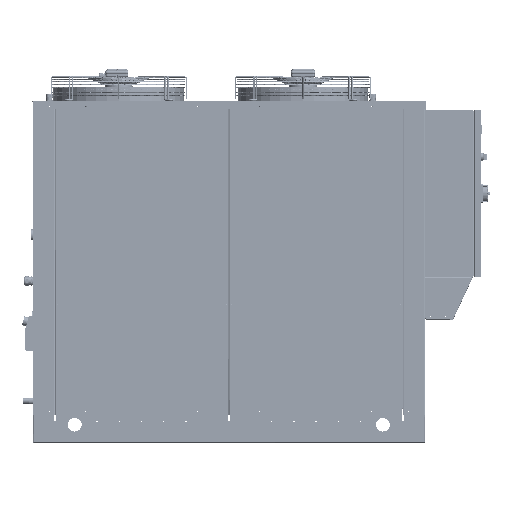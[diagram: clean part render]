
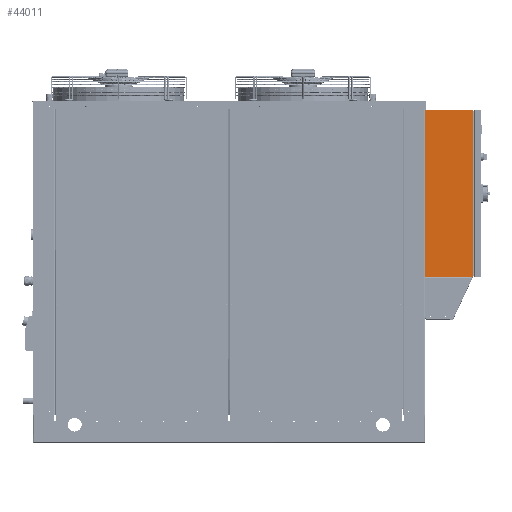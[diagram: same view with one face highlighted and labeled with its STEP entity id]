
A CAD part, top view. The second image highlights one B-rep face of the part: STEP entity #44011.
In plain terms, the highlighted planar face has unit normal (0, 0, 1) as drawn and (-1, 0, 0) by its records, which use the part's own axes.
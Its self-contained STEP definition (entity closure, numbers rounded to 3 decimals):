
#1239 = EDGE_CURVE ( 'NONE', #43133, #431359, #128428, .T. ) ;
#1651 = VERTEX_POINT ( 'NONE', #31347 ) ;
#21989 = EDGE_LOOP ( 'NONE', ( #458600, #116286, #394175, #341304 ) ) ;
#31347 = CARTESIAN_POINT ( 'NONE',  ( -200., 300., -28.805 ) ) ;
#33216 = VECTOR ( 'NONE', #205949, 1000. ) ;
#43133 = VERTEX_POINT ( 'NONE', #239147 ) ;
#44011 = ADVANCED_FACE ( 'NONE', ( #197934 ), #379913, .T. ) ;
#70303 = EDGE_CURVE ( 'NONE', #445640, #43133, #106324, .T. ) ;
#106324 = LINE ( 'NONE', #160911, #201393 ) ;
#116286 = ORIENTED_EDGE ( 'NONE', *, *, #279318, .F. ) ;
#128428 = LINE ( 'NONE', #315463, #33216 ) ;
#129407 = CARTESIAN_POINT ( 'NONE',  ( -200., 300., -200. ) ) ;
#159556 = DIRECTION ( 'NONE',  ( 0., 0., 1. ) ) ;
#160911 = CARTESIAN_POINT ( 'NONE',  ( -200., 300., -200. ) ) ;
#185021 = DIRECTION ( 'NONE',  ( 0., -1., 0. ) ) ;
#197934 = FACE_OUTER_BOUND ( 'NONE', #21989, .T. ) ;
#201308 = DIRECTION ( 'NONE',  ( 0., -1., 0. ) ) ;
#201393 = VECTOR ( 'NONE', #235930, 1000. ) ;
#205949 = DIRECTION ( 'NONE',  ( 0., 0., 1. ) ) ;
#221031 = CARTESIAN_POINT ( 'NONE',  ( -200., 316.971, -28.805 ) ) ;
#231281 = VECTOR ( 'NONE', #159556, 1000. ) ;
#235930 = DIRECTION ( 'NONE',  ( 0., -1., 0. ) ) ;
#239147 = CARTESIAN_POINT ( 'NONE',  ( -200., -300., -200. ) ) ;
#249517 = VECTOR ( 'NONE', #185021, 1000. ) ;
#250459 = EDGE_CURVE ( 'NONE', #1651, #431359, #451248, .T. ) ;
#279318 = EDGE_CURVE ( 'NONE', #445640, #1651, #444206, .T. ) ;
#301945 = CARTESIAN_POINT ( 'NONE',  ( -200., 300., -200. ) ) ;
#315463 = CARTESIAN_POINT ( 'NONE',  ( -200., -300., -200. ) ) ;
#328780 = AXIS2_PLACEMENT_3D ( 'NONE', #129407, #415753, #201308 ) ;
#341304 = ORIENTED_EDGE ( 'NONE', *, *, #1239, .T. ) ;
#379913 = PLANE ( 'NONE',  #328780 ) ;
#382049 = CARTESIAN_POINT ( 'NONE',  ( -200., -300., -28.805 ) ) ;
#394175 = ORIENTED_EDGE ( 'NONE', *, *, #70303, .T. ) ;
#415753 = DIRECTION ( 'NONE',  ( -1., 0., 0. ) ) ;
#420201 = CARTESIAN_POINT ( 'NONE',  ( -200., 300., -200. ) ) ;
#431359 = VERTEX_POINT ( 'NONE', #382049 ) ;
#444206 = LINE ( 'NONE', #301945, #231281 ) ;
#445640 = VERTEX_POINT ( 'NONE', #420201 ) ;
#451248 = LINE ( 'NONE', #221031, #249517 ) ;
#458600 = ORIENTED_EDGE ( 'NONE', *, *, #250459, .F. ) ;
